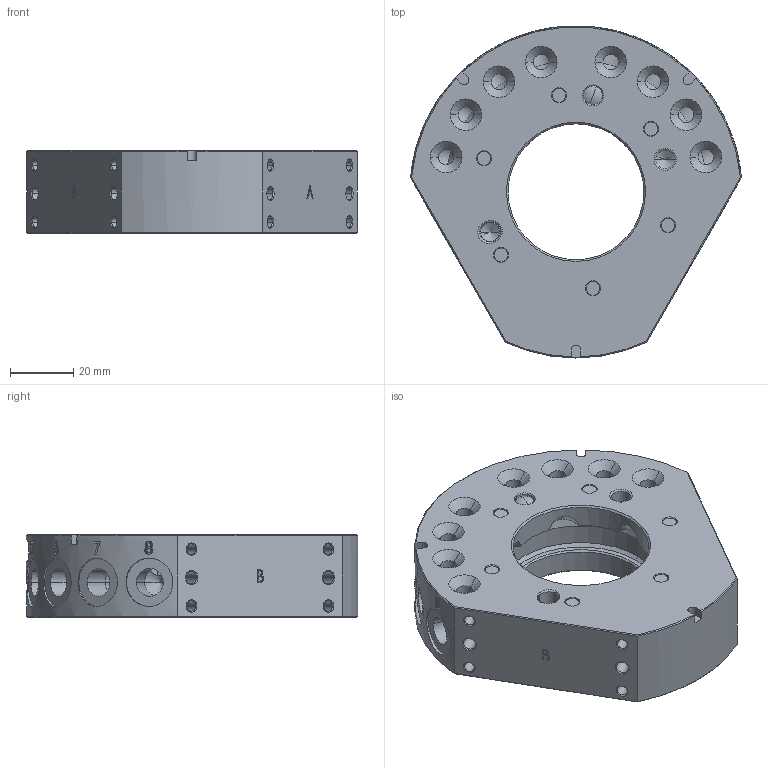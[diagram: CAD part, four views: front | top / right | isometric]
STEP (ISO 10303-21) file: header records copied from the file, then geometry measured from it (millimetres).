
FILE_DESCRIPTION (( 'STEP AP203' ), '1' );
FILE_NAME ('QCA-35G.STEP', '2024-03-19T08:05:10', ( '微软用户' ), ( '微软中国' ), 'SwSTEP 2.0', 'SolidWorks 2018', '' );
FILE_SCHEMA (( 'CONFIG_CONTROL_DESIGN' ));
Length unit declared in the file: millimetre
Products named in the file (1): QCA-35G
Bounding box: 104.62 x 104.96 x 26 mm (x, y, z)
Volume: 143783.4 mm3; surface area: 37912.6 mm2
Topology: 1 solids, 7 shells, 1273 faces, 2796 edges, 1540 vertices
Faces by surface type: cone 616, cylinder 394, plane 210, bspline 34, torus 19
Entity records: 38558 total; most frequent: CARTESIAN_POINT 10726, DIRECTION 6225, ORIENTED_EDGE 5448, EDGE_CURVE 2724, AXIS2_PLACEMENT_3D 2428, VERTEX_POINT 1540, EDGE_LOOP 1378, LINE 1369
